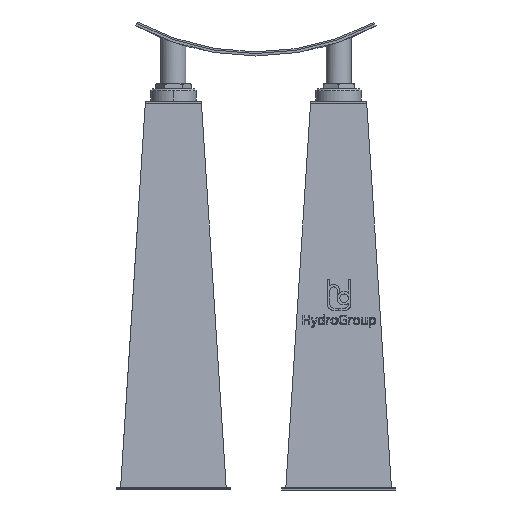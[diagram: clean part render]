
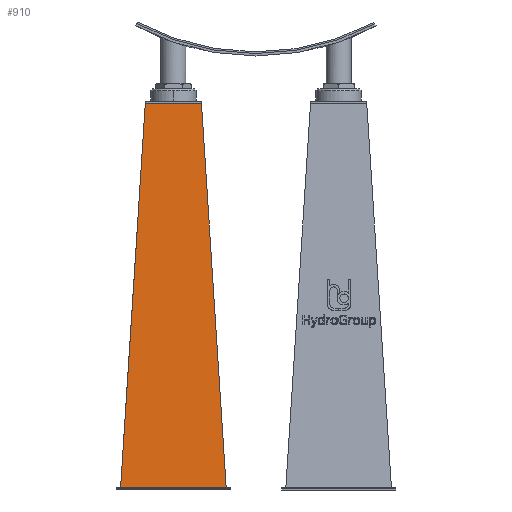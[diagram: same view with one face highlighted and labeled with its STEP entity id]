
A CAD part, front view. The second image highlights one B-rep face of the part: STEP entity #910.
In plain terms, the highlighted planar face has unit normal (0, -0.998, 0.064).
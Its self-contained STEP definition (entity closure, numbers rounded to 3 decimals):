
#910=ADVANCED_FACE('',(#2013),#2014,.F.);
#2013=FACE_OUTER_BOUND('',#3395,.T.);
#2014=PLANE('',#3396);
#3395=EDGE_LOOP('',(#6053,#6054,#6055,#6056));
#3396=AXIS2_PLACEMENT_3D('',#6057,#6058,#6059);
#6053=ORIENTED_EDGE('',*,*,#8933,.T.);
#6054=ORIENTED_EDGE('',*,*,#8949,.F.);
#6055=ORIENTED_EDGE('',*,*,#8959,.F.);
#6056=ORIENTED_EDGE('',*,*,#8687,.T.);
#6057=CARTESIAN_POINT('',(227.658,256.47,368.731));
#6058=DIRECTION('',(0.,0.998,-0.064));
#6059=DIRECTION('',(1.0,0.,0.));
#8687=EDGE_CURVE('',#10364,#10362,#10365,.F.);
#8933=EDGE_CURVE('',#10362,#10688,#10690,.T.);
#8949=EDGE_CURVE('',#10710,#10688,#10712,.T.);
#8959=EDGE_CURVE('',#10364,#10710,#10725,.T.);
#10362=VERTEX_POINT('',#13479);
#10364=VERTEX_POINT('',#13482);
#10365=LINE('',#13483,#13484);
#10688=VERTEX_POINT('',#14069);
#10690=LINE('',#14072,#14073);
#10710=VERTEX_POINT('',#14102);
#10712=LINE('',#14105,#14106);
#10725=LINE('',#14125,#14126);
#13479=CARTESIAN_POINT('',(34.845,196.651,-560.462));
#13482=CARTESIAN_POINT('',(94.652,256.458,368.538));
#13483=CARTESIAN_POINT('',(94.944,256.75,373.072));
#13484=VECTOR('',#16650,1.);
#14069=CARTESIAN_POINT('',(290.471,196.651,-560.462));
#14072=CARTESIAN_POINT('',(195.158,196.651,-560.462));
#14073=VECTOR('',#16826,1.0);
#14102=CARTESIAN_POINT('',(230.664,256.458,368.538));
#14105=CARTESIAN_POINT('',(230.372,256.75,373.072));
#14106=VECTOR('',#16837,1.);
#14125=CARTESIAN_POINT('',(195.158,256.458,368.538));
#14126=VECTOR('',#16844,1.0);
#16650=DIRECTION('',(0.064,0.064,0.996));
#16826=DIRECTION('',(1.0,0.,0.));
#16837=DIRECTION('',(0.064,-0.064,-0.996));
#16844=DIRECTION('',(1.0,0.,0.));
